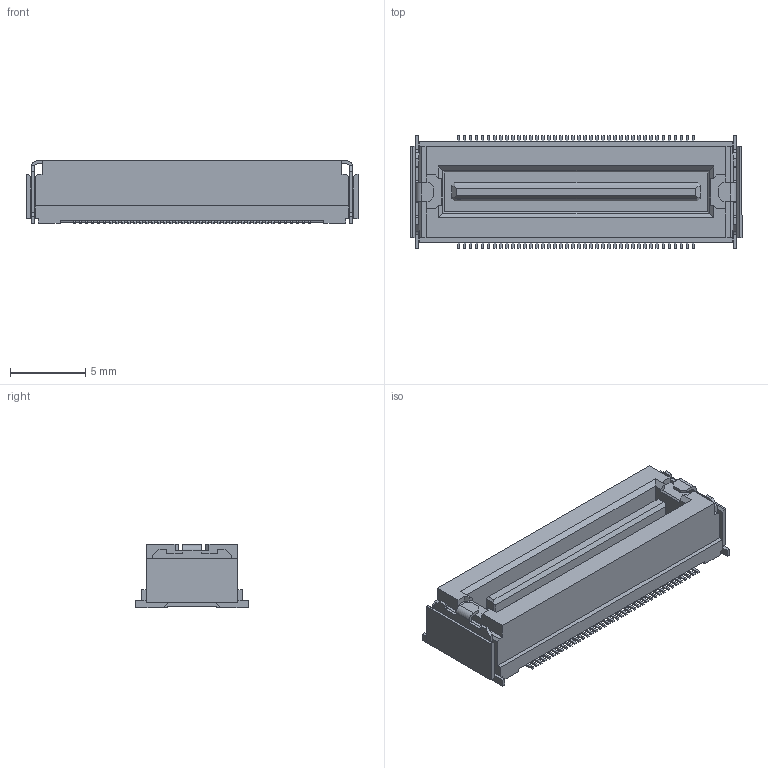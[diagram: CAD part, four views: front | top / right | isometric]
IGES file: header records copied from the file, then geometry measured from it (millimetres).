
Start section: Elysium IGES Interface
Global section: file name: C:\Users\1354\Desktop\P3D161_DU00-080SB\P3D161_DU00-080SB.igs; native system: Creo Elements/Direct Modeling 19.0F  14-Feb-2017; preprocessor: Creo Element/Direct IGES_3D V2.2; author: Unknown; organization: Unknown; date: 20171127.154424; units: millimetre
Bounding box: 22.1 x 7.5 x 4.25 mm (x, y, z)
Volume: 440.7 mm3; surface area: 798.2 mm2
Topology: 1 solids, 1 shells, 874 faces, 2469 edges, 1638 vertices
Faces by surface type: bspline 874
